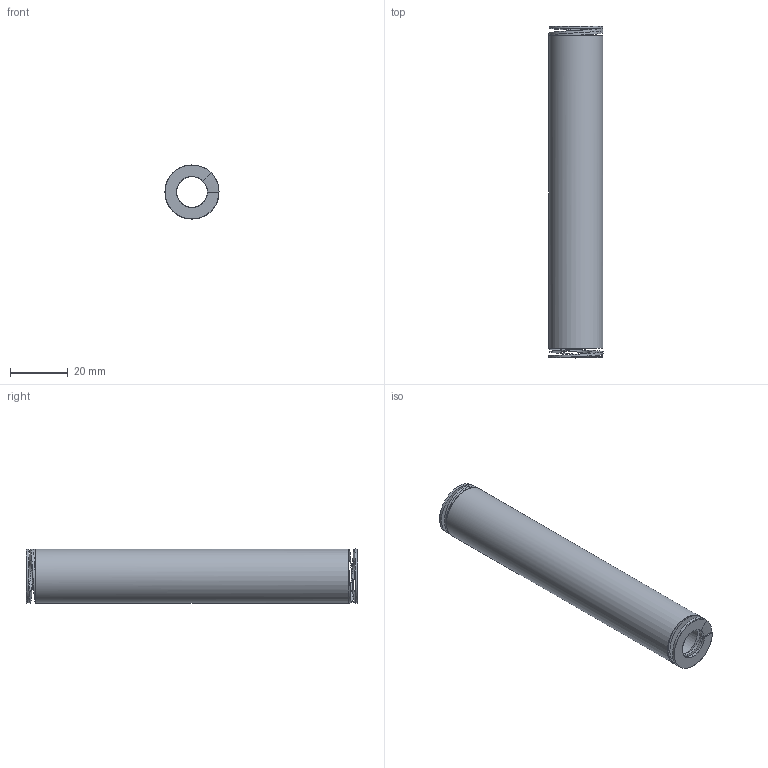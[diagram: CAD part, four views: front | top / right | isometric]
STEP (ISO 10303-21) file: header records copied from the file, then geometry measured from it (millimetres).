
FILE_DESCRIPTION(/* description */ ('Max 50% | 57,5 | 385'),/* implementation_level */ '2;1');
FILE_NAME(/* name */ '1L19115.step',/* time_stamp */ '2026-10-07T11:03:30+02:00',/* author */ ('1L'),/* organization */ ('4,0x1,7 prostokatny'),/* preprocessor_version */ 'ST-DEVELOPER v20.1',/* originating_system */ 'Autodesk Inventor 2026',/* authorisation */ '6,7');
FILE_SCHEMA (('AUTOMOTIVE_DESIGN { 1 0 10303 214 3 1 1 }'));
Length unit declared in the file: millimetre
Products named in the file (1): 1L19115
Bounding box: 18.72 x 115 x 18.72 mm (x, y, z)
Volume: 20783.6 mm3; surface area: 11873.1 mm2
Topology: 2 solids, 2 shells, 23 faces, 60 edges, 38 vertices
Faces by surface type: bspline 14, plane 7, cylinder 2
Full cylindrical faces by diameter (mm): 10.709 x1, 18.711 x1
Entity records: 2658 total; most frequent: CARTESIAN_POINT 2182, ORIENTED_EDGE 120, EDGE_CURVE 60, B_SPLINE_CURVE_WITH_KNOTS 48, VERTEX_POINT 38, DIRECTION 34, EDGE_LOOP 26, FACE_OUTER_BOUND 22
